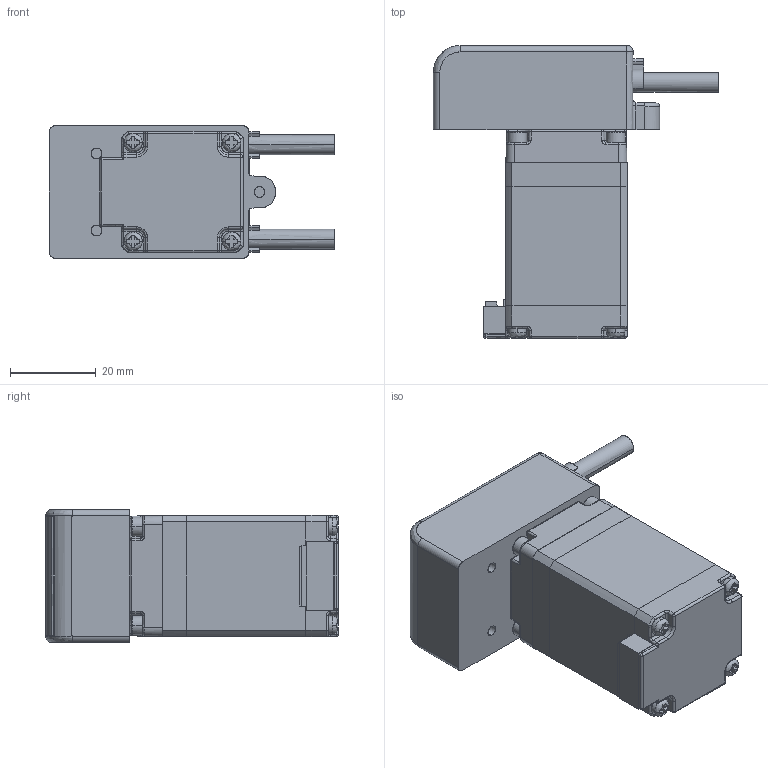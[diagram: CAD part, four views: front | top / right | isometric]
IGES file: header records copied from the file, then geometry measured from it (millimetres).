
Start section: SolidWorks IGES file using analytic representation for surfaces
Global section: file name: Q:\2016\03 Nautilus\41 Files Shell Creation\01 Workfiles\Oina ETL200 use only with SW2017\NA geschlossen\Homepagefiles\close\ETL200-18-closed.IGS; native system: SolidWorks 2017; preprocessor: SolidWorks 2017; author: hxs2830; date: 200615.135505; units: millimetre
Bounding box: 66.5 x 68.3 x 31 mm (x, y, z)
Surface area: 13971.4 mm2 (no closed solid volume)
Topology: 0 solids, 0 shells, 767 faces, 5205 edges, 5185 vertices
Faces by surface type: bspline 592, revolution 175
